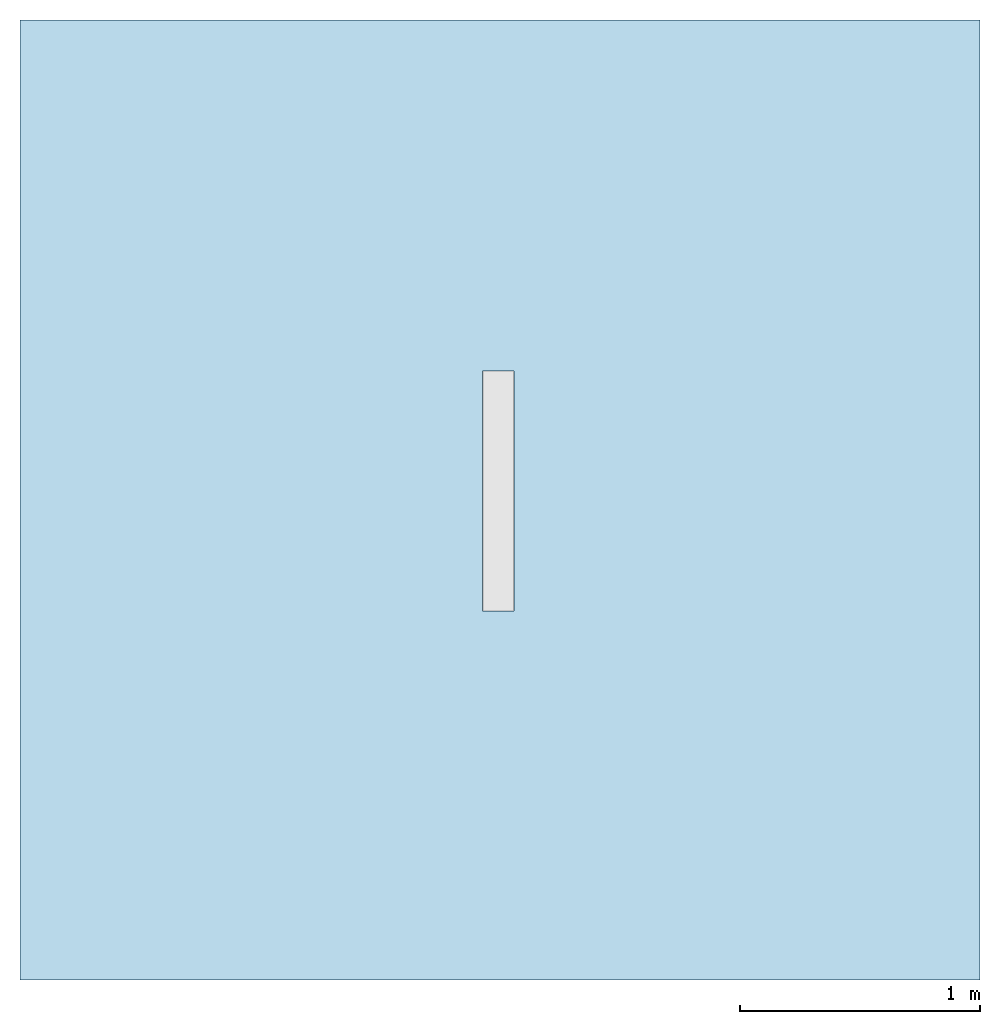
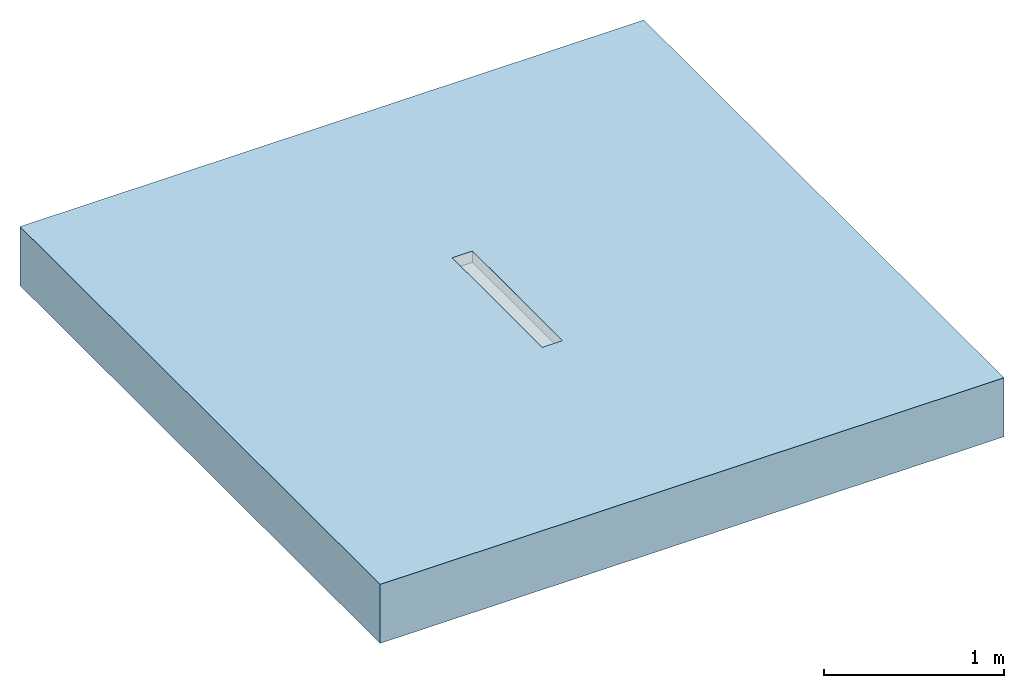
# One storey, incomplete: 1 slab.
"""IFC2X3 building model written with IfcOpenShell, lengths in millimetres."""

from ifc_helpers import new_model, entity, si_unit, converted_unit, derived_unit, direction, frame, frame_2d, origin, place, context, subcontext, project, spatial, polyline, rectangle, extrude, clip, bounded_halfspace, material, layer, layer_set, layer_usage, element, save


model = new_model("IFC2X3")

# Units and contexts
model_context = context("Model", 3, precision=1e-05, world=origin(), true_north=direction((2.0, 6.12303176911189e-17, 1.0)))
context_of_model = context(None, 3, precision=1e-05, world=origin(), true_north=direction((2.0, 6.12303176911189e-17, 1.0)))
body_context = subcontext(model_context, "Body", "Model", "MODEL_VIEW")
ifc_project = project(units=[si_unit("LENGTHUNIT", "METRE", prefix="MILLI"), si_unit("AREAUNIT", "SQUARE_METRE"), si_unit("VOLUMEUNIT", "CUBIC_METRE"), converted_unit("PLANEANGLEUNIT", "DEGREE", entity("IfcRatioMeasure", 0.0174532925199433), si_unit("PLANEANGLEUNIT", "RADIAN"), dimensions=[0, 0, 0, 0, 0, 0, 0]), si_unit("MASSUNIT", "GRAM", prefix="KILO"), si_unit("TIMEUNIT", "SECOND"), si_unit("THERMODYNAMICTEMPERATUREUNIT", "KELVIN"), derived_unit("THERMALTRANSMITTANCEUNIT", [(si_unit("MASSUNIT", "GRAM", prefix="KILO"), 1), (si_unit("THERMODYNAMICTEMPERATUREUNIT", "KELVIN"), -1), (si_unit("TIMEUNIT", "SECOND"), -3)]), derived_unit("VOLUMETRICFLOWRATEUNIT", [(si_unit("LENGTHUNIT", "METRE"), 3), (si_unit("TIMEUNIT", "SECOND"), -1)]), si_unit("POWERUNIT", "WATT")], contexts=[model_context, context_of_model])

# Site, building, storey
site_placement = place(None, origin())
site = spatial("IfcSite", under=ifc_project, at=site_placement, Name="Default", CompositionType="ELEMENT")
building_placement = place(site_placement, origin())
building = spatial("IfcBuilding", under=site, at=building_placement, CompositionType="ELEMENT")
storey_placement = place(building_placement, origin())
storey = spatial("IfcBuildingStorey", under=building, at=storey_placement, Name="Level 1", CompositionType="ELEMENT", Elevation=0.0)

# Slab
ifc_material = material(Name="Concrete, Broom Finish")
ifc_layer = layer(ifc_material, 400.0)
ifc_layer_set = layer_set([ifc_layer], Name="Floor:Generic Floor - 400mm")
ifc_layer_usage = layer_usage(ifc_layer_set, "AXIS3", "POSITIVE", 0.0)
slab_placement = place(storey_placement, origin())
element("IfcSlab", 1, at=slab_placement, inside=storey, material=ifc_layer_usage, Name="Floor:Generic Floor - 400mm", ObjectType="Floor:Generic Floor - 400mm", PredefinedType="FLOOR", context=body_context, shape_type="Clipping", body=[
    clip(extrude(rectangle(XDim=4000.0, YDim=4000.0, at=frame_2d((3.41060513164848e-13, 0.0), x_axis=(1.0, 0.0))), frame((-42.1761383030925, 2.05004766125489, 0.0), z_axis=(0.0, 0.0, -1.0), x_axis=(0.0, 1.0, 0.0)), (0.0, 0.0, 1.0), 400.0), bounded_halfspace(frame((-114.815027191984, -460.102730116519, -75.0)), False, frame((-42.1761383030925, 2.05004766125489, 0.0), z_axis=(0.0, 0.0, -1.0), x_axis=(0.0, 1.0, 0.0)), polyline([(-462.152777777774, -72.6388888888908), (-462.152777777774, 57.3611111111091), (537.847222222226, 57.3611111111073), (537.847222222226, -72.6388888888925), (-462.152777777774, -72.6388888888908)]))),
])

save(model, "model.ifc")
